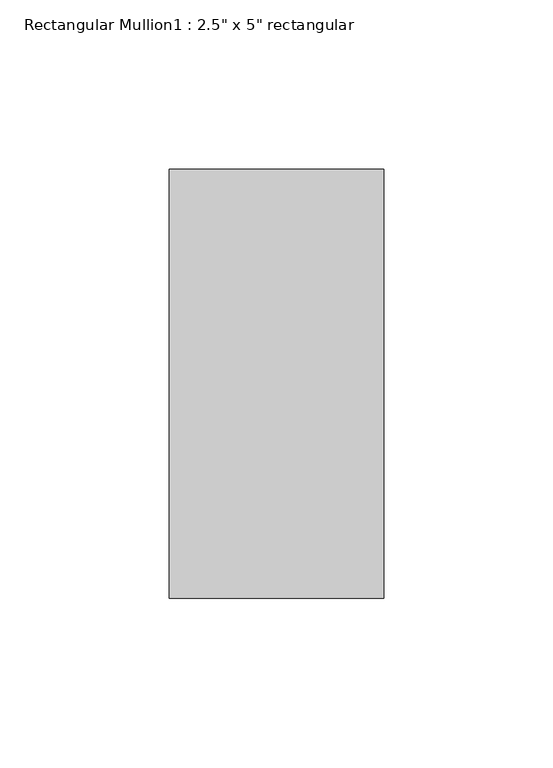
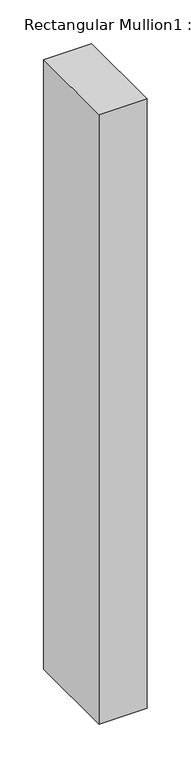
"""IFC4 building model written with IfcOpenShell, lengths in millimetres: member geometry."""

from ifc_helpers import new_model, si_unit, frame, origin, place, context, project, spatial, polyline, outline, extrude, source, transform, mapped, element, save


def member_7db1855a(model_context):
    return source(origin(), model_context, "Body", "SweptSolid", [
        extrude(outline(polyline([(31.75, 63.5), (31.75, -63.5), (-31.75, -63.5), (-31.75, 63.5), (31.75, 63.5)])), frame((0.0, 0.0, -850.9), z_axis=(0.0, 0.0, 1.0), x_axis=(1.0, 0.0, 0.0)), (0.0, 0.0, 1.0), 850.9),
    ])


if __name__ == "__main__":
    model = new_model("IFC4")
    model_context = context("Model", 3, world=origin())
    ifc_project = project(units=[si_unit("LENGTHUNIT", "METRE", prefix="MILLI")], contexts=[model_context])
    site = spatial("IfcSite", under=ifc_project)
    building = spatial("IfcBuilding", under=site)
    placement = place(None, origin())
    member_shape = member_7db1855a(model_context)
    element("IfcMember", 1, ObjectType="Rectangular Mullion1 : 2.5\" x 5\" rectangular", at=placement, inside=building, context=model_context, shape_type="MappedRepresentation", body=[
        mapped(member_shape, transform((0.0, 0.0, 0.0), x_axis=(1.0, 0.0, 0.0), y_axis=(0.0, 1.0, 0.0), z_axis=(0.0, 0.0, 1.0))),
    ])
    save(model, "model.ifc")
